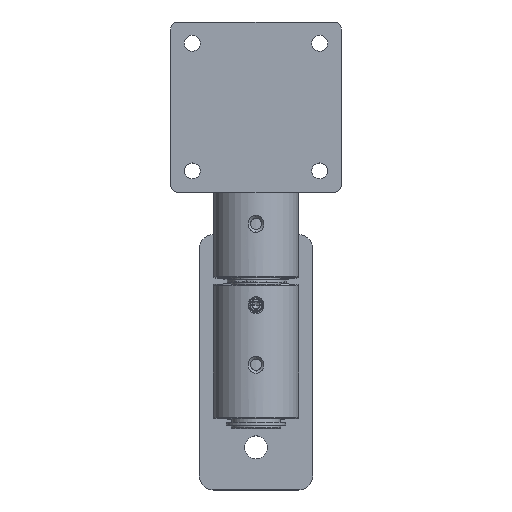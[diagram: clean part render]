
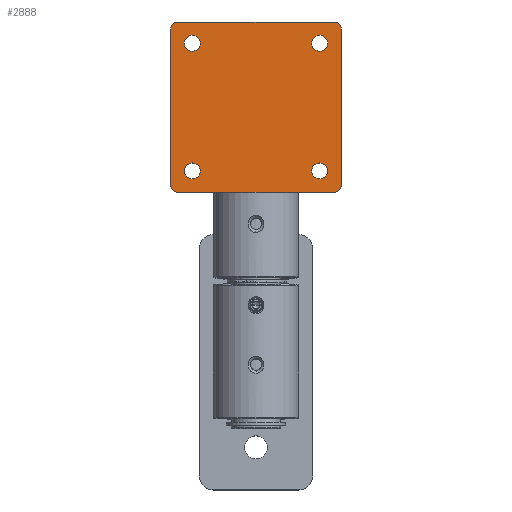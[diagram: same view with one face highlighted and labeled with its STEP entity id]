
A CAD part, top view. The second image highlights one B-rep face of the part: STEP entity #2888.
In plain terms, the highlighted planar face has unit normal (0, 0, 1) as drawn and (0, 0, -1) by its records, which use the part's own axes.
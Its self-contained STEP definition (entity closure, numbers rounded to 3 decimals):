
#47 = CARTESIAN_POINT ( 'NONE',  ( -25.003, 28.575, -6.35 ) ) ;
#144 = EDGE_LOOP ( 'NONE', ( #6075, #2653, #2977, #4815, #3261, #10683, #5903, #6633 ) ) ;
#192 = DIRECTION ( 'NONE',  ( 1., 0., 0. ) ) ;
#265 = EDGE_CURVE ( 'NONE', #10274, #4483, #8937, .T. ) ;
#284 = CARTESIAN_POINT ( 'NONE',  ( 28.575, 28.575, -6.35 ) ) ;
#608 = EDGE_CURVE ( 'NONE', #10274, #3768, #1118, .T. ) ;
#1011 = DIRECTION ( 'NONE',  ( 0., 0., -1. ) ) ;
#1019 = FACE_OUTER_BOUND ( 'NONE', #144, .T. ) ;
#1065 = EDGE_CURVE ( 'NONE', #2166, #2099, #3233, .T. ) ;
#1118 = CIRCLE ( 'NONE', #2315, 3.175 ) ;
#1143 = CARTESIAN_POINT ( 'NONE',  ( -38.1, 34.925, -6.35 ) ) ;
#1169 = VERTEX_POINT ( 'NONE', #12341 ) ;
#1195 = ORIENTED_EDGE ( 'NONE', *, *, #8328, .T. ) ;
#1209 = ORIENTED_EDGE ( 'NONE', *, *, #10966, .T. ) ;
#1583 = CARTESIAN_POINT ( 'NONE',  ( 28.575, -28.575, -6.35 ) ) ;
#1754 = CARTESIAN_POINT ( 'NONE',  ( -34.925, 38.1, -6.35 ) ) ;
#1910 = DIRECTION ( 'NONE',  ( 1., 0., 0. ) ) ;
#1961 = LINE ( 'NONE', #8623, #2519 ) ;
#2026 = DIRECTION ( 'NONE',  ( 0., -1., 0. ) ) ;
#2048 = CARTESIAN_POINT ( 'NONE',  ( -34.925, -34.925, -6.35 ) ) ;
#2099 = VERTEX_POINT ( 'NONE', #9807 ) ;
#2109 = EDGE_LOOP ( 'NONE', ( #7581, #10421 ) ) ;
#2166 = VERTEX_POINT ( 'NONE', #8925 ) ;
#2176 = VERTEX_POINT ( 'NONE', #10052 ) ;
#2225 = DIRECTION ( 'NONE',  ( 0., 0., 1. ) ) ;
#2301 = EDGE_CURVE ( 'NONE', #3559, #1169, #4060, .T. ) ;
#2315 = AXIS2_PLACEMENT_3D ( 'NONE', #2048, #10665, #9553 ) ;
#2367 = ORIENTED_EDGE ( 'NONE', *, *, #4008, .T. ) ;
#2389 = DIRECTION ( 'NONE',  ( 0., 0., -1. ) ) ;
#2519 = VECTOR ( 'NONE', #11670, 1000. ) ;
#2552 = CARTESIAN_POINT ( 'NONE',  ( -28.575, -28.575, -6.35 ) ) ;
#2585 = DIRECTION ( 'NONE',  ( -1., 0., 0. ) ) ;
#2653 = ORIENTED_EDGE ( 'NONE', *, *, #608, .T. ) ;
#2690 = CIRCLE ( 'NONE', #3284, 3.572 ) ;
#2798 = DIRECTION ( 'NONE',  ( 0., 0., 1. ) ) ;
#2837 = VERTEX_POINT ( 'NONE', #3357 ) ;
#2888 = ADVANCED_FACE ( 'NONE', ( #4845, #8510, #5746, #7680, #1019 ), #9640, .T. ) ;
#2893 = CIRCLE ( 'NONE', #11712, 3.572 ) ;
#2944 = AXIS2_PLACEMENT_3D ( 'NONE', #5617, #3797, #7622 ) ;
#2959 = EDGE_CURVE ( 'NONE', #1169, #3559, #9191, .T. ) ;
#2977 = ORIENTED_EDGE ( 'NONE', *, *, #5249, .F. ) ;
#3166 = VERTEX_POINT ( 'NONE', #1754 ) ;
#3233 = CIRCLE ( 'NONE', #8052, 3.572 ) ;
#3261 = ORIENTED_EDGE ( 'NONE', *, *, #5737, .F. ) ;
#3266 = CARTESIAN_POINT ( 'NONE',  ( 34.925, 34.925, -6.35 ) ) ;
#3284 = AXIS2_PLACEMENT_3D ( 'NONE', #284, #2225, #11894 ) ;
#3347 = DIRECTION ( 'NONE',  ( 1., 0., 0. ) ) ;
#3357 = CARTESIAN_POINT ( 'NONE',  ( 32.147, -28.575, -6.35 ) ) ;
#3379 = VERTEX_POINT ( 'NONE', #3492 ) ;
#3492 = CARTESIAN_POINT ( 'NONE',  ( -32.147, -28.575, -6.35 ) ) ;
#3559 = VERTEX_POINT ( 'NONE', #47 ) ;
#3768 = VERTEX_POINT ( 'NONE', #8528 ) ;
#3797 = DIRECTION ( 'NONE',  ( 0., 0., -1. ) ) ;
#4008 = EDGE_CURVE ( 'NONE', #2176, #2837, #8794, .T. ) ;
#4060 = CIRCLE ( 'NONE', #11080, 3.572 ) ;
#4308 = AXIS2_PLACEMENT_3D ( 'NONE', #12123, #2389, #2585 ) ;
#4391 = DIRECTION ( 'NONE',  ( 0., 0., 1. ) ) ;
#4483 = VERTEX_POINT ( 'NONE', #10526 ) ;
#4540 = CIRCLE ( 'NONE', #11555, 3.175 ) ;
#4687 = ORIENTED_EDGE ( 'NONE', *, *, #2301, .T. ) ;
#4726 = CARTESIAN_POINT ( 'NONE',  ( 34.925, -34.925, -6.35 ) ) ;
#4773 = AXIS2_PLACEMENT_3D ( 'NONE', #7952, #6763, #11586 ) ;
#4810 = DIRECTION ( 'NONE',  ( 0., 0., 1. ) ) ;
#4815 = ORIENTED_EDGE ( 'NONE', *, *, #9868, .T. ) ;
#4845 = FACE_BOUND ( 'NONE', #11626, .T. ) ;
#5097 = DIRECTION ( 'NONE',  ( 0., 0., -1. ) ) ;
#5200 = CARTESIAN_POINT ( 'NONE',  ( -34.925, -38.1, -6.35 ) ) ;
#5230 = VERTEX_POINT ( 'NONE', #6982 ) ;
#5249 = EDGE_CURVE ( 'NONE', #11956, #3768, #11753, .T. ) ;
#5310 = DIRECTION ( 'NONE',  ( 1., 0., 0. ) ) ;
#5617 = CARTESIAN_POINT ( 'NONE',  ( 0., 0., -6.35 ) ) ;
#5711 = CIRCLE ( 'NONE', #4308, 3.175 ) ;
#5737 = EDGE_CURVE ( 'NONE', #5230, #3166, #1961, .T. ) ;
#5746 = FACE_BOUND ( 'NONE', #8265, .T. ) ;
#5788 = CARTESIAN_POINT ( 'NONE',  ( 38.1, 34.925, -6.35 ) ) ;
#5903 = ORIENTED_EDGE ( 'NONE', *, *, #10430, .F. ) ;
#6075 = ORIENTED_EDGE ( 'NONE', *, *, #265, .F. ) ;
#6128 = VECTOR ( 'NONE', #2026, 1000. ) ;
#6292 = DIRECTION ( 'NONE',  ( 0., 0., 1. ) ) ;
#6492 = DIRECTION ( 'NONE',  ( 0., 0., 1. ) ) ;
#6572 = DIRECTION ( 'NONE',  ( 1., 0., 0. ) ) ;
#6616 = CARTESIAN_POINT ( 'NONE',  ( -28.575, 28.575, -6.35 ) ) ;
#6633 = ORIENTED_EDGE ( 'NONE', *, *, #8594, .T. ) ;
#6741 = CARTESIAN_POINT ( 'NONE',  ( 38.1, -38.1, -6.35 ) ) ;
#6763 = DIRECTION ( 'NONE',  ( 0., 0., 1. ) ) ;
#6982 = CARTESIAN_POINT ( 'NONE',  ( 34.925, 38.1, -6.35 ) ) ;
#7167 = DIRECTION ( 'NONE',  ( 1., 0., 0. ) ) ;
#7340 = AXIS2_PLACEMENT_3D ( 'NONE', #10006, #4810, #7167 ) ;
#7581 = ORIENTED_EDGE ( 'NONE', *, *, #7642, .T. ) ;
#7622 = DIRECTION ( 'NONE',  ( -1., 0., 0. ) ) ;
#7642 = EDGE_CURVE ( 'NONE', #2099, #2166, #2690, .T. ) ;
#7680 = FACE_BOUND ( 'NONE', #9053, .T. ) ;
#7810 = CARTESIAN_POINT ( 'NONE',  ( -38.1, -38.1, -6.35 ) ) ;
#7871 = EDGE_CURVE ( 'NONE', #8221, #3379, #7902, .T. ) ;
#7902 = CIRCLE ( 'NONE', #9916, 3.572 ) ;
#7952 = CARTESIAN_POINT ( 'NONE',  ( 28.575, -28.575, -6.35 ) ) ;
#7988 = DIRECTION ( 'NONE',  ( -1., 0., 0. ) ) ;
#8052 = AXIS2_PLACEMENT_3D ( 'NONE', #10473, #2798, #6572 ) ;
#8115 = CIRCLE ( 'NONE', #11517, 3.175 ) ;
#8221 = VERTEX_POINT ( 'NONE', #9889 ) ;
#8265 = EDGE_LOOP ( 'NONE', ( #1195, #2367 ) ) ;
#8328 = EDGE_CURVE ( 'NONE', #2837, #2176, #2893, .T. ) ;
#8510 = FACE_BOUND ( 'NONE', #2109, .T. ) ;
#8528 = CARTESIAN_POINT ( 'NONE',  ( -38.1, -34.925, -6.35 ) ) ;
#8540 = DIRECTION ( 'NONE',  ( 0., 1., 0. ) ) ;
#8594 = EDGE_CURVE ( 'NONE', #11452, #4483, #8115, .T. ) ;
#8623 = CARTESIAN_POINT ( 'NONE',  ( -38.1, 38.1, -6.35 ) ) ;
#8794 = CIRCLE ( 'NONE', #4773, 3.572 ) ;
#8925 = CARTESIAN_POINT ( 'NONE',  ( 25.003, 28.575, -6.35 ) ) ;
#8937 = LINE ( 'NONE', #6741, #9607 ) ;
#9053 = EDGE_LOOP ( 'NONE', ( #10758, #1209 ) ) ;
#9191 = CIRCLE ( 'NONE', #9987, 3.572 ) ;
#9553 = DIRECTION ( 'NONE',  ( -1., 0., 0. ) ) ;
#9607 = VECTOR ( 'NONE', #192, 1000. ) ;
#9640 = PLANE ( 'NONE',  #2944 ) ;
#9742 = VECTOR ( 'NONE', #8540, 1000. ) ;
#9807 = CARTESIAN_POINT ( 'NONE',  ( 32.147, 28.575, -6.35 ) ) ;
#9868 = EDGE_CURVE ( 'NONE', #11956, #3166, #5711, .T. ) ;
#9889 = CARTESIAN_POINT ( 'NONE',  ( -25.003, -28.575, -6.35 ) ) ;
#9916 = AXIS2_PLACEMENT_3D ( 'NONE', #2552, #10094, #5310 ) ;
#9987 = AXIS2_PLACEMENT_3D ( 'NONE', #6616, #6492, #1910 ) ;
#9993 = DIRECTION ( 'NONE',  ( 1., 0., 0. ) ) ;
#10006 = CARTESIAN_POINT ( 'NONE',  ( -28.575, -28.575, -6.35 ) ) ;
#10052 = CARTESIAN_POINT ( 'NONE',  ( 25.003, -28.575, -6.35 ) ) ;
#10094 = DIRECTION ( 'NONE',  ( 0., 0., 1. ) ) ;
#10274 = VERTEX_POINT ( 'NONE', #5200 ) ;
#10360 = CIRCLE ( 'NONE', #7340, 3.572 ) ;
#10421 = ORIENTED_EDGE ( 'NONE', *, *, #1065, .T. ) ;
#10430 = EDGE_CURVE ( 'NONE', #11452, #11336, #11282, .T. ) ;
#10473 = CARTESIAN_POINT ( 'NONE',  ( 28.575, 28.575, -6.35 ) ) ;
#10526 = CARTESIAN_POINT ( 'NONE',  ( 34.925, -38.1, -6.35 ) ) ;
#10557 = ORIENTED_EDGE ( 'NONE', *, *, #2959, .T. ) ;
#10665 = DIRECTION ( 'NONE',  ( 0., 0., -1. ) ) ;
#10683 = ORIENTED_EDGE ( 'NONE', *, *, #12196, .T. ) ;
#10758 = ORIENTED_EDGE ( 'NONE', *, *, #7871, .T. ) ;
#10921 = CARTESIAN_POINT ( 'NONE',  ( -28.575, 28.575, -6.35 ) ) ;
#10966 = EDGE_CURVE ( 'NONE', #3379, #8221, #10360, .T. ) ;
#11080 = AXIS2_PLACEMENT_3D ( 'NONE', #10921, #4391, #9993 ) ;
#11282 = LINE ( 'NONE', #12288, #9742 ) ;
#11336 = VERTEX_POINT ( 'NONE', #5788 ) ;
#11452 = VERTEX_POINT ( 'NONE', #11766 ) ;
#11517 = AXIS2_PLACEMENT_3D ( 'NONE', #4726, #1011, #12383 ) ;
#11555 = AXIS2_PLACEMENT_3D ( 'NONE', #3266, #5097, #7988 ) ;
#11586 = DIRECTION ( 'NONE',  ( 1., 0., 0. ) ) ;
#11626 = EDGE_LOOP ( 'NONE', ( #4687, #10557 ) ) ;
#11670 = DIRECTION ( 'NONE',  ( -1., 0., 0. ) ) ;
#11712 = AXIS2_PLACEMENT_3D ( 'NONE', #1583, #6292, #3347 ) ;
#11753 = LINE ( 'NONE', #7810, #6128 ) ;
#11766 = CARTESIAN_POINT ( 'NONE',  ( 38.1, -34.925, -6.35 ) ) ;
#11894 = DIRECTION ( 'NONE',  ( 1., 0., 0. ) ) ;
#11956 = VERTEX_POINT ( 'NONE', #1143 ) ;
#12123 = CARTESIAN_POINT ( 'NONE',  ( -34.925, 34.925, -6.35 ) ) ;
#12196 = EDGE_CURVE ( 'NONE', #5230, #11336, #4540, .T. ) ;
#12288 = CARTESIAN_POINT ( 'NONE',  ( 38.1, 38.1, -6.35 ) ) ;
#12341 = CARTESIAN_POINT ( 'NONE',  ( -32.147, 28.575, -6.35 ) ) ;
#12383 = DIRECTION ( 'NONE',  ( -1., 0., 0. ) ) ;
